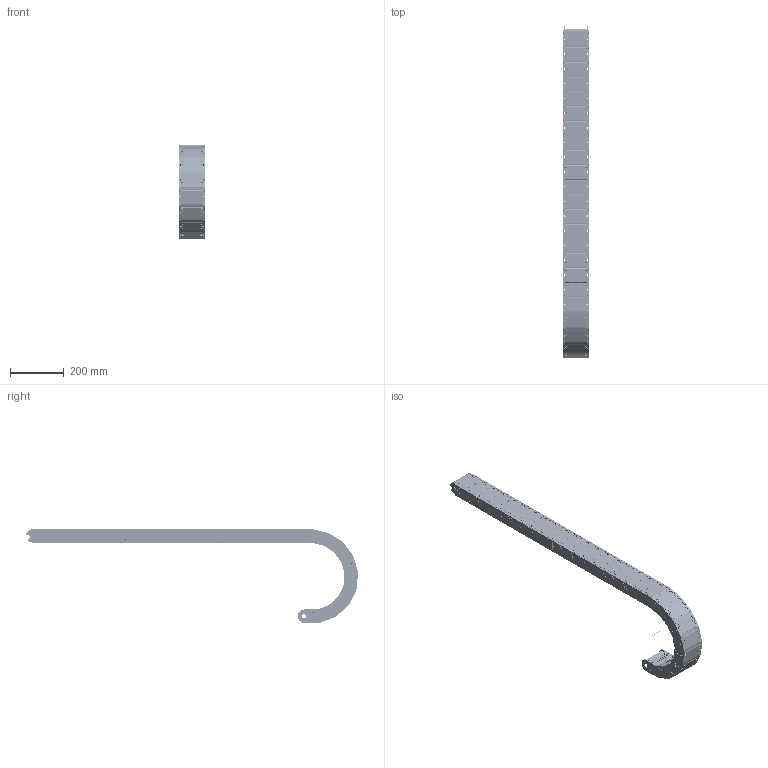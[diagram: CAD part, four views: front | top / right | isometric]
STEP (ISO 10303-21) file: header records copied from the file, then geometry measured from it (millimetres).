
FILE_DESCRIPTION((''),'2;1');
FILE_NAME('C:\Uebbing\PARAMETERKETTEN\KOLIBRI\Kol_50_095_5\KOLIBRI 50_095_5_R150.stp','2015-06-24T14:00:46',('Uebbing'),(''),'Autodesk Inventor 10','Autodesk Inventor 10','');
FILE_SCHEMA(('AUTOMOTIVE_DESIGN { 1 0 10303 214 1 1 1 1 }'));
Length unit declared in the file: millimetre
Products named in the file (5): KOLIBRI 50_095_5_PARAMETRISCH; Achse; Kol_50_095_5 Glied; Kol_50_095_5_Lasche; Kol_50_095_5_Klappdeckel
Assembly tree (31 placements, depth 3):
  KOLIBRI 50_095_5_PARAMETRISCH
    Achse
    Kol_50_095_5 Glied  x28
      Kol_50_095_5_Lasche
      Kol_50_095_5_Klappdeckel
Bounding box: 95 x 1240.31 x 350 mm (x, y, z)
Volume: 1862983.7 mm3; surface area: 1299597.7 mm2
Topology: 57 solids, 57 shells, 21255 faces, 57964 edges, 37775 vertices
Faces by surface type: plane 11734, cylinder 6329, bspline 3080, cone 84, sphere 28
Full cylindrical faces by diameter (mm): 1 x1, 2.011 x56, 3.531 x56, 4 x168, 6 x56, 8 x168, 16 x56
Entity records: 24998 total; most frequent: CARTESIAN_POINT 5467, ORIENTED_EDGE 4074, DIRECTION 3938, EDGE_CURVE 2037, VECTOR 1466, LINE 1466, VERTEX_POINT 1342, AXIS2_PLACEMENT_3D 1236
